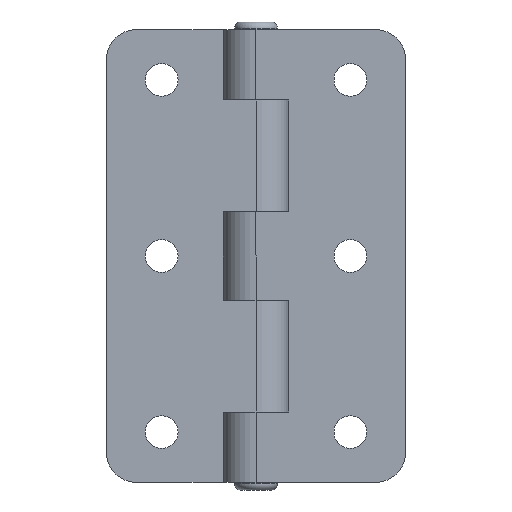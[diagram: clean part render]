
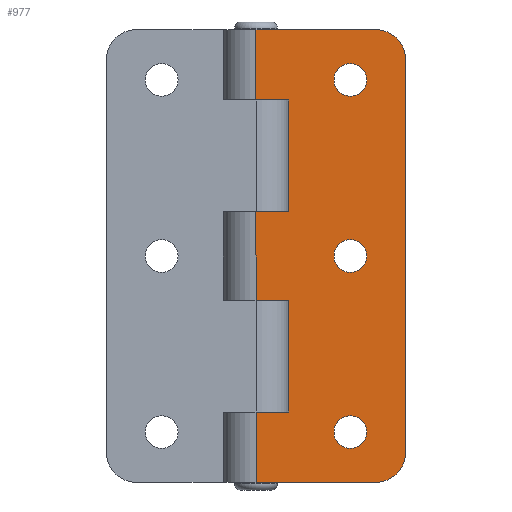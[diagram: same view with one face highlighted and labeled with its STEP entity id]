
A CAD part, front view. The second image highlights one B-rep face of the part: STEP entity #977.
In plain terms, the highlighted planar face has unit normal (0, -1, 0).
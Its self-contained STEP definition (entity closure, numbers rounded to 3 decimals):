
#31=FACE_BOUND('',#146,.T.);
#32=FACE_BOUND('',#147,.T.);
#33=FACE_BOUND('',#148,.T.);
#88=FACE_OUTER_BOUND('',#145,.T.);
#145=EDGE_LOOP('',(#712,#713,#714,#715,#716,#717,#718,#719,#720,#721,#722,
#723,#724,#725));
#146=EDGE_LOOP('',(#726));
#147=EDGE_LOOP('',(#727));
#148=EDGE_LOOP('',(#728));
#228=CIRCLE('',#1049,6.);
#229=CIRCLE('',#1050,6.);
#230=CIRCLE('',#1051,3.25);
#231=CIRCLE('',#1052,3.25);
#232=CIRCLE('',#1053,3.25);
#268=LINE('',#1452,#354);
#272=LINE('',#1469,#358);
#275=LINE('',#1473,#361);
#278=LINE('',#1481,#364);
#282=LINE('',#1498,#368);
#285=LINE('',#1502,#371);
#292=LINE('',#1519,#378);
#293=LINE('',#1521,#379);
#294=LINE('',#1523,#380);
#295=LINE('',#1527,#381);
#296=LINE('',#1531,#382);
#297=LINE('',#1532,#383);
#354=VECTOR('',#1144,6.5);
#358=VECTOR('',#1158,6.5);
#361=VECTOR('',#1163,22.25);
#364=VECTOR('',#1168,6.5);
#368=VECTOR('',#1182,6.5);
#371=VECTOR('',#1187,22.25);
#378=VECTOR('',#1206,17.5);
#379=VECTOR('',#1207,14.);
#380=VECTOR('',#1208,23.75);
#381=VECTOR('',#1211,78.);
#382=VECTOR('',#1214,23.75);
#383=VECTOR('',#1215,14.);
#440=VERTEX_POINT('',#1449);
#441=VERTEX_POINT('',#1451);
#448=VERTEX_POINT('',#1466);
#449=VERTEX_POINT('',#1468);
#452=VERTEX_POINT('',#1478);
#453=VERTEX_POINT('',#1480);
#460=VERTEX_POINT('',#1495);
#461=VERTEX_POINT('',#1497);
#466=VERTEX_POINT('',#1520);
#467=VERTEX_POINT('',#1522);
#468=VERTEX_POINT('',#1524);
#469=VERTEX_POINT('',#1526);
#470=VERTEX_POINT('',#1528);
#471=VERTEX_POINT('',#1530);
#472=VERTEX_POINT('',#1533);
#473=VERTEX_POINT('',#1535);
#474=VERTEX_POINT('',#1537);
#536=EDGE_CURVE('',#441,#440,#268,.T.);
#544=EDGE_CURVE('',#449,#448,#272,.T.);
#547=EDGE_CURVE('',#440,#449,#275,.T.);
#550=EDGE_CURVE('',#453,#452,#278,.T.);
#558=EDGE_CURVE('',#461,#460,#282,.T.);
#561=EDGE_CURVE('',#452,#461,#285,.T.);
#570=EDGE_CURVE('',#453,#448,#292,.T.);
#571=EDGE_CURVE('',#466,#460,#293,.T.);
#572=EDGE_CURVE('',#467,#466,#294,.T.);
#573=EDGE_CURVE('',#468,#467,#228,.T.);
#574=EDGE_CURVE('',#469,#468,#295,.T.);
#575=EDGE_CURVE('',#470,#469,#229,.T.);
#576=EDGE_CURVE('',#471,#470,#296,.T.);
#577=EDGE_CURVE('',#441,#471,#297,.T.);
#578=EDGE_CURVE('',#472,#472,#230,.T.);
#579=EDGE_CURVE('',#473,#473,#231,.T.);
#580=EDGE_CURVE('',#474,#474,#232,.T.);
#712=ORIENTED_EDGE('',*,*,#536,.T.);
#713=ORIENTED_EDGE('',*,*,#547,.T.);
#714=ORIENTED_EDGE('',*,*,#544,.T.);
#715=ORIENTED_EDGE('',*,*,#570,.F.);
#716=ORIENTED_EDGE('',*,*,#550,.T.);
#717=ORIENTED_EDGE('',*,*,#561,.T.);
#718=ORIENTED_EDGE('',*,*,#558,.T.);
#719=ORIENTED_EDGE('',*,*,#571,.F.);
#720=ORIENTED_EDGE('',*,*,#572,.F.);
#721=ORIENTED_EDGE('',*,*,#573,.F.);
#722=ORIENTED_EDGE('',*,*,#574,.F.);
#723=ORIENTED_EDGE('',*,*,#575,.F.);
#724=ORIENTED_EDGE('',*,*,#576,.F.);
#725=ORIENTED_EDGE('',*,*,#577,.F.);
#726=ORIENTED_EDGE('',*,*,#578,.T.);
#727=ORIENTED_EDGE('',*,*,#579,.T.);
#728=ORIENTED_EDGE('',*,*,#580,.T.);
#942=PLANE('',#1048);
#977=ADVANCED_FACE('',(#88,#31,#32,#33),#942,.T.);
#1048=AXIS2_PLACEMENT_3D('',#1518,#1204,#1205);
#1049=AXIS2_PLACEMENT_3D('',#1525,#1209,#1210);
#1050=AXIS2_PLACEMENT_3D('',#1529,#1212,#1213);
#1051=AXIS2_PLACEMENT_3D('',#1534,#1216,#1217);
#1052=AXIS2_PLACEMENT_3D('',#1536,#1218,#1219);
#1053=AXIS2_PLACEMENT_3D('',#1538,#1220,#1221);
#1144=DIRECTION('',(-1.,0.,0.));
#1158=DIRECTION('',(1.,0.,0.));
#1163=DIRECTION('',(0.,0.,1.));
#1168=DIRECTION('',(-1.,0.,0.));
#1182=DIRECTION('',(1.,0.,0.));
#1187=DIRECTION('',(0.,0.,1.));
#1204=DIRECTION('center_axis',(0.,-1.,0.));
#1205=DIRECTION('ref_axis',(1.,0.,0.));
#1206=DIRECTION('',(0.,0.,-1.));
#1207=DIRECTION('',(0.,0.,-1.));
#1208=DIRECTION('',(1.,0.,0.));
#1209=DIRECTION('center_axis',(0.,1.,0.));
#1210=DIRECTION('ref_axis',(-0.707,0.,0.707));
#1211=DIRECTION('',(0.,0.,1.));
#1212=DIRECTION('center_axis',(0.,1.,0.));
#1213=DIRECTION('ref_axis',(-0.707,0.,-0.707));
#1214=DIRECTION('',(-1.,0.,0.));
#1215=DIRECTION('',(0.,0.,-1.));
#1216=DIRECTION('center_axis',(0.,1.,0.));
#1217=DIRECTION('ref_axis',(1.,0.,0.));
#1218=DIRECTION('center_axis',(0.,1.,0.));
#1219=DIRECTION('ref_axis',(1.,0.,0.));
#1220=DIRECTION('center_axis',(0.,1.,0.));
#1221=DIRECTION('ref_axis',(1.,0.,0.));
#1449=CARTESIAN_POINT('',(-6.5,0.,-31.));
#1451=CARTESIAN_POINT('',(0.,0.,-31.));
#1452=CARTESIAN_POINT('',(-9.675,0.,-31.));
#1466=CARTESIAN_POINT('',(0.,0.,-8.75));
#1468=CARTESIAN_POINT('',(-6.5,0.,-8.75));
#1469=CARTESIAN_POINT('',(-18.125,0.,-8.75));
#1473=CARTESIAN_POINT('',(-6.5,0.,-15.5));
#1478=CARTESIAN_POINT('',(-6.5,0.,8.75));
#1480=CARTESIAN_POINT('',(0.,0.,8.75));
#1481=CARTESIAN_POINT('',(-9.675,0.,8.75));
#1495=CARTESIAN_POINT('',(0.,0.,31.));
#1497=CARTESIAN_POINT('',(-6.5,0.,31.));
#1498=CARTESIAN_POINT('',(-18.125,0.,31.));
#1502=CARTESIAN_POINT('',(-6.5,0.,4.375));
#1518=CARTESIAN_POINT('Origin',(-29.75,0.,0.));
#1519=CARTESIAN_POINT('',(0.,0.,0.));
#1520=CARTESIAN_POINT('',(0.,0.,45.));
#1521=CARTESIAN_POINT('',(0.,0.,0.));
#1522=CARTESIAN_POINT('',(-23.75,0.,45.));
#1523=CARTESIAN_POINT('',(-29.75,0.,45.));
#1524=CARTESIAN_POINT('',(-29.75,0.,39.));
#1525=CARTESIAN_POINT('Origin',(-23.75,0.,39.));
#1526=CARTESIAN_POINT('',(-29.75,0.,-39.));
#1527=CARTESIAN_POINT('',(-29.75,0.,0.));
#1528=CARTESIAN_POINT('',(-23.75,0.,-45.));
#1529=CARTESIAN_POINT('Origin',(-23.75,0.,-39.));
#1530=CARTESIAN_POINT('',(0.,0.,-45.));
#1531=CARTESIAN_POINT('',(-29.75,0.,-45.));
#1532=CARTESIAN_POINT('',(0.,0.,0.));
#1533=CARTESIAN_POINT('',(-22.,0.,35.));
#1534=CARTESIAN_POINT('Origin',(-18.75,0.,35.));
#1535=CARTESIAN_POINT('',(-22.,0.,-35.));
#1536=CARTESIAN_POINT('Origin',(-18.75,0.,-35.));
#1537=CARTESIAN_POINT('',(-22.,0.,0.));
#1538=CARTESIAN_POINT('Origin',(-18.75,0.,0.));
